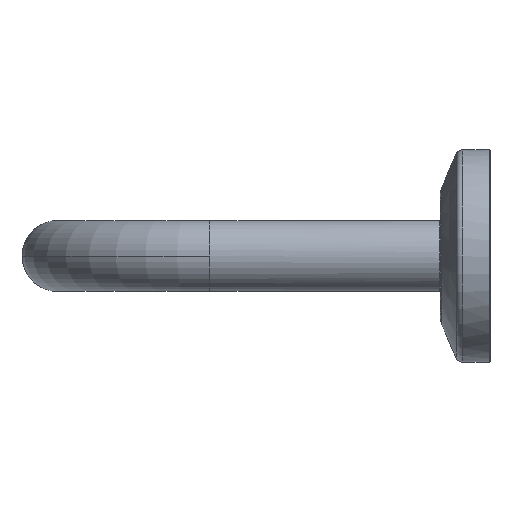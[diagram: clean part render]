
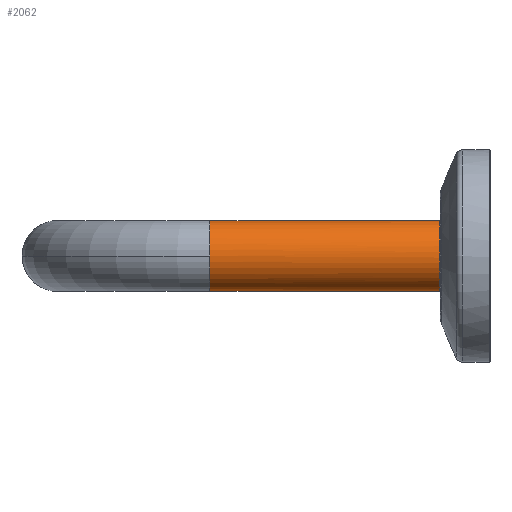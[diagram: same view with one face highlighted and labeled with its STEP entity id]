
A CAD part, left-side view. The second image highlights one B-rep face of the part: STEP entity #2062.
In plain terms, the highlighted cylindrical face has radius 10 mm (diameter 20 mm), a partial arc.
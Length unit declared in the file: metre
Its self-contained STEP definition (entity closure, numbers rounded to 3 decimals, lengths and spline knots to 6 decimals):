
#104=EDGE_CURVE('',#105,#108,#110,.F.);
#105=VERTEX_POINT('',#106);
#106=CARTESIAN_POINT('',(-0.34,0.0002,-0.01));
#107=CARTESIAN_POINT('',(-0.34,0.0002,0.01));
#108=VERTEX_POINT('',#109);
#109=CARTESIAN_POINT('',(-0.34,0.0002,0.01));
#110=(B_SPLINE_CURVE(3,(#107,#111,#112,#113),.UNSPECIFIED.,.F.,.U.)B_SPLINE_CURVE_WITH_KNOTS(
  (4,4),(0.0,1.0),.UNSPECIFIED.)BOUNDED_CURVE()CURVE()GEOMETRIC_REPRESENTATION_ITEM(
  )RATIONAL_B_SPLINE_CURVE((1.0,0.333,0.333,1.0)
  )REPRESENTATION_ITEM(''));
#111=CARTESIAN_POINT('',(-0.36,0.0002,0.01));
#112=CARTESIAN_POINT('',(-0.36,0.0002,-0.01));
#113=CARTESIAN_POINT('',(-0.34,0.0002,-0.01));
#2062=ADVANCED_FACE('',(#2068),#2063,.T.);
#2063=CYLINDRICAL_SURFACE('',#2064,0.01);
#2064=AXIS2_PLACEMENT_3D('',#2065,#2066,#2067);
#2065=CARTESIAN_POINT('',(-0.34,0.065,-0.0));
#2066=DIRECTION('',(-0.0,-1.0,0.0));
#2067=DIRECTION('',(0.,0.0,-1.0));
#2068=FACE_OUTER_BOUND('',#2069,.T.);
#2069=EDGE_LOOP('',(#2070,#2081,#2087,#2088,#2096));
#2070=ORIENTED_EDGE('',*,*,#2071,.F.);
#2071=EDGE_CURVE('',#2072,#2074,#2076,.T.);
#2072=VERTEX_POINT('',#2073);
#2073=CARTESIAN_POINT('',(-0.34,0.065,-0.01));
#2074=VERTEX_POINT('',#2075);
#2075=CARTESIAN_POINT('',(-0.35,0.065,-0.0));
#2076=CIRCLE('',#2077,0.01);
#2077=AXIS2_PLACEMENT_3D('',#2078,#2079,#2080);
#2078=CARTESIAN_POINT('',(-0.34,0.065,-0.0));
#2079=DIRECTION('',(0.0,1.0,0.));
#2080=DIRECTION('',(0.,0.,-1.0));
#2081=ORIENTED_EDGE('',*,*,#2082,.T.);
#2082=EDGE_CURVE('',#2072,#105,#2083,.T.);
#2083=LINE('',#2084,#2085);
#2084=CARTESIAN_POINT('',(-0.34,0.065,-0.01));
#2085=VECTOR('',#2086,1.0);
#2086=DIRECTION('',(-0.0,-1.0,0.0));
#2087=ORIENTED_EDGE('',*,*,#104,.T.);
#2088=ORIENTED_EDGE('',*,*,#2089,.F.);
#2089=EDGE_CURVE('',#2090,#108,#2092,.T.);
#2090=VERTEX_POINT('',#2091);
#2091=CARTESIAN_POINT('',(-0.34,0.065,0.01));
#2092=LINE('',#2093,#2094);
#2093=CARTESIAN_POINT('',(-0.34,0.065,0.01));
#2094=VECTOR('',#2095,1.0);
#2095=DIRECTION('',(-0.0,-1.0,0.0));
#2096=ORIENTED_EDGE('',*,*,#2097,.F.);
#2097=EDGE_CURVE('',#2074,#2090,#2076,.T.);
